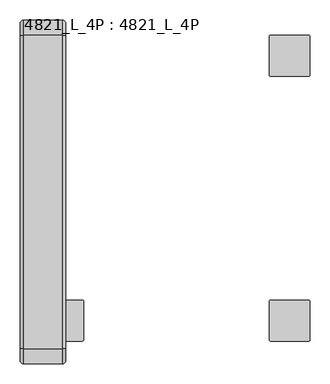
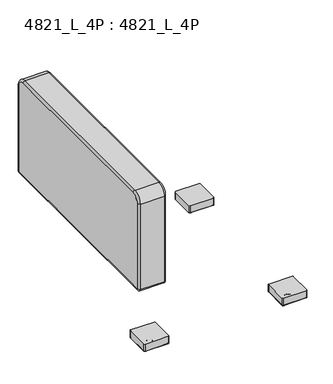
"""IFC4 building model written with IfcOpenShell, lengths in millimetres: furniture geometry, 4821_L_4P : 4821_L_4P."""

from ifc_helpers import new_model, si_unit, point, frame, frame_2d, origin, place, context, project, spatial, polyline, circle_curve, ellipse_curve, trimmed, segment, composite_curve, outline, extrude, source, transform, mapped, element, save
from ifc_brep_helpers import plane_surface, cylinder_surface, revolved_surface, advanced_brep


def furniture_4821_l_4p_4821_l_4p_99b63004(model_context):
    return source(origin(), model_context, "Body", "SolidModel", [
        advanced_brep(
        [(114.3, -8.89, 698.8175), (114.3, -38.1, 728.0275), (114.3, -819.15, 728.0275), (114.3, -848.36, 698.8175), (114.3, -848.36, 330.4403326), (114.3, -847.8021674, 329.8825), (114.3, -9.4347305, 329.8825), (114.3, -8.89, 330.4272305), (0.0, -38.1, 728.0275), (0.0, -8.89, 698.8175), (0.0, -8.89, 330.4272305), (0.0, -9.4347305, 329.8825), (0.0, -847.8021674, 329.8825), (0.0, -848.36, 330.4403326), (0.0, -848.36, 698.8175), (0.0, -819.15, 728.0275), (8.89, -38.1, 736.9175), (8.89, -819.15, 736.9175), (105.41, -819.15, 736.9175), (105.41, -38.1, 736.9175), (8.89, -857.25, 698.8175), (105.41, -857.25, 698.8175), (8.89, -857.25, 330.4403326), (105.41, -857.25, 330.4403326), (8.89, -847.8021674, 320.9925), (105.41, -847.8021674, 320.9925), (8.89, -9.4347305, 320.9925), (105.41, -9.4347305, 320.9925), (57.15, -187.325, 320.9925), (57.15, -161.925, 320.9925), (57.15, -695.325, 320.9925), (57.15, -669.925, 320.9925), (8.89, 0.0, 330.4272305), (105.41, 0.0, 330.4272305), (8.89, 0.0, 698.8175), (105.41, 0.0, 698.8175), (57.15, -161.925, 333.6925), (57.15, -187.325, 333.6925), (57.15, -669.925, 333.6925), (57.15, -695.325, 333.6925)],
        [
            (0, 1, circle_curve(frame((114.3, -38.1, 698.8175), z_axis=(1.0, 0.0, 0.0), x_axis=(0.0, 0.0, 1.0)), 29.21)),
            (1, 2),
            (2, 3, circle_curve(frame((114.3, -819.15, 698.8175), z_axis=(1.0, 0.0, 0.0), x_axis=(0.0, -1.0, 0.0)), 29.21)),
            (3, 4),
            (4, 5, circle_curve(frame((114.3, -847.8021674, 330.4403326), z_axis=(1.0, 0.0, 0.0), x_axis=(0.0, 0.0, -1.0)), 0.5578326)),
            (5, 6),
            (6, 7, circle_curve(frame((114.3, -9.4347305, 330.4272305), z_axis=(1.0, 0.0, 0.0), x_axis=(0.0, 1.0, 0.0)), 0.5447305)),
            (7, 0),
            (8, 9, circle_curve(frame((0.0, -38.1, 698.8175), z_axis=(-1.0, 0.0, 0.0), x_axis=(0.0, 0.0, 1.0)), 29.21)),
            (9, 10),
            (10, 11, circle_curve(frame((0.0, -9.4347305, 330.4272305), z_axis=(-1.0, 0.0, 0.0), x_axis=(0.0, 1.0, 0.0)), 0.5447305)),
            (11, 12),
            (12, 13, circle_curve(frame((0.0, -847.8021674, 330.4403326), z_axis=(-1.0, 0.0, 0.0), x_axis=(0.0, 0.0, -1.0)), 0.5578326)),
            (13, 14),
            (14, 15, circle_curve(frame((0.0, -819.15, 698.8175), z_axis=(-1.0, 0.0, 0.0), x_axis=(0.0, -1.0, 0.0)), 29.21)),
            (15, 8),
            (16, 17),
            (17, 18),
            (18, 19),
            (19, 16),
            (17, 20, circle_curve(frame((8.89, -819.15, 698.8175), z_axis=(1.0, 0.0, 0.0), x_axis=(0.0, -1.0, 0.0)), 38.1)),
            (20, 21),
            (21, 18, circle_curve(frame((105.41, -819.15, 698.8175), z_axis=(-1.0, 0.0, 0.0), x_axis=(0.0, -1.0, 0.0)), 38.1)),
            (20, 22),
            (22, 23),
            (23, 21),
            (22, 24, circle_curve(frame((8.89, -847.8021674, 330.4403326), z_axis=(1.0, 0.0, 0.0), x_axis=(0.0, -1.0, 0.0)), 9.4478326)),
            (24, 25),
            (25, 23, circle_curve(frame((105.41, -847.8021674, 330.4403326), z_axis=(-1.0, 0.0, 0.0), x_axis=(0.0, -1.0, 0.0)), 9.4478326)),
            (24, 26),
            (26, 27),
            (27, 25),
            (28, 29, circle_curve(frame((57.15, -174.625, 320.9925), z_axis=(0.0, 0.0, 1.0), x_axis=(-1.0, 0.0, 0.0)), 12.7)),
            (29, 28),
            (30, 31, circle_curve(frame((57.15, -682.625, 320.9925), z_axis=(0.0, 0.0, 1.0), x_axis=(-1.0, 0.0, 0.0)), 12.7)),
            (31, 30),
            (26, 32, circle_curve(frame((8.89, -9.4347305, 330.4272305), z_axis=(1.0, 0.0, 0.0), x_axis=(0.0, -1.0, 0.0)), 9.4347305)),
            (32, 33),
            (33, 27, circle_curve(frame((105.41, -9.4347305, 330.4272305), z_axis=(-1.0, 0.0, 0.0), x_axis=(0.0, -1.0, 0.0)), 9.4347305)),
            (32, 34),
            (34, 35),
            (35, 33),
            (34, 16, circle_curve(frame((8.89, -38.1, 698.8175), z_axis=(1.0, 0.0, 0.0), x_axis=(0.0, -1.0, 0.0)), 38.1)),
            (19, 35, circle_curve(frame((105.41, -38.1, 698.8175), z_axis=(-1.0, 0.0, 0.0), x_axis=(0.0, -1.0, 0.0)), 38.1)),
            (34, 9, circle_curve(frame((8.89, -8.89, 698.8175), z_axis=(0.0, 0.0, 1.0), x_axis=(1.0, 0.0, 0.0)), 8.89)),
            (8, 16, circle_curve(frame((8.89, -38.1, 728.0275), z_axis=(0.0, 1.0, 0.0), x_axis=(1.0, 0.0, 0.0)), 8.89)),
            (32, 10, circle_curve(frame((8.89, -8.89, 330.4272305), z_axis=(0.0, 0.0, 1.0), x_axis=(1.0, 0.0, 0.0)), 8.89)),
            (26, 11, circle_curve(frame((8.89, -9.4347305, 329.8825), z_axis=(0.0, 1.0, 0.0), x_axis=(1.0, 0.0, 0.0)), 8.89)),
            (24, 12, circle_curve(frame((8.89, -847.8021674, 329.8825), z_axis=(0.0, 1.0, 0.0), x_axis=(1.0, 0.0, 0.0)), 8.89)),
            (22, 13, circle_curve(frame((8.89, -848.36, 330.4403326), z_axis=(0.0, 0.0, -1.0), x_axis=(1.0, 0.0, 0.0)), 8.89)),
            (20, 14, circle_curve(frame((8.89, -848.36, 698.8175), z_axis=(0.0, 0.0, -1.0), x_axis=(1.0, 0.0, 0.0)), 8.89)),
            (17, 15, circle_curve(frame((8.89, -819.15, 728.0275), z_axis=(0.0, -1.0, 0.0), x_axis=(1.0, 0.0, 0.0)), 8.89)),
            (0, 35, circle_curve(frame((105.41, -8.89, 698.8175), z_axis=(0.0, 0.0, 1.0), x_axis=(-1.0, 0.0, 0.0)), 8.89)),
            (19, 1, circle_curve(frame((105.41, -38.1, 728.0275), z_axis=(0.0, 1.0, 0.0), x_axis=(-1.0, 0.0, 0.0)), 8.89)),
            (7, 33, circle_curve(frame((105.41, -8.89, 330.4272305), z_axis=(0.0, 0.0, 1.0), x_axis=(-1.0, 0.0, 0.0)), 8.89)),
            (6, 27, circle_curve(frame((105.41, -9.4347305, 329.8825), z_axis=(0.0, 1.0, 0.0), x_axis=(-1.0, 0.0, 0.0)), 8.89)),
            (5, 25, circle_curve(frame((105.41, -847.8021674, 329.8825), z_axis=(0.0, 1.0, 0.0), x_axis=(-1.0, 0.0, 0.0)), 8.89)),
            (4, 23, circle_curve(frame((105.41, -848.36, 330.4403326), z_axis=(0.0, 0.0, -1.0), x_axis=(-1.0, 0.0, 0.0)), 8.89)),
            (3, 21, circle_curve(frame((105.41, -848.36, 698.8175), z_axis=(0.0, 0.0, -1.0), x_axis=(-1.0, 0.0, 0.0)), 8.89)),
            (2, 18, circle_curve(frame((105.41, -819.15, 728.0275), z_axis=(0.0, -1.0, 0.0), x_axis=(-1.0, 0.0, 0.0)), 8.89)),
            (36, 37, circle_curve(frame((57.15, -174.625, 333.6925), z_axis=(0.0, 0.0, -1.0), x_axis=(-1.0, 0.0, 0.0)), 12.7)),
            (37, 36),
            (38, 39, circle_curve(frame((57.15, -682.625, 333.6925), z_axis=(0.0, 0.0, -1.0), x_axis=(-1.0, 0.0, 0.0)), 12.7)),
            (39, 38),
            (36, 29),
            (28, 37),
            (38, 31),
            (30, 39),
        ],
        [
            plane_surface(frame((114.3, -819.15, 736.9175), z_axis=(1.0, 0.0, 0.0), x_axis=(0.0, -1.0, 0.0))),
            plane_surface(frame((0.0, -819.15, 736.9175), z_axis=(-1.0, 0.0, 0.0), x_axis=(0.0, 1.0, 0.0))),
            plane_surface(frame((114.3, -38.1, 736.9175), z_axis=(0.0, 0.0, 1.0), x_axis=(-1.0, 0.0, 0.0))),
            cylinder_surface(frame((0.0, -819.15, 698.8175), z_axis=(1.0, 0.0, 0.0), x_axis=(0.0, -1.0, 0.0)), 38.1),
            plane_surface(frame((114.3, -857.25, 698.8175), z_axis=(0.0, -1.0, 0.0), x_axis=(-1.0, 0.0, 0.0))),
            cylinder_surface(frame((0.0, -847.8021674, 330.4403326), z_axis=(1.0, 0.0, 0.0), x_axis=(0.0, -1.0, 0.0)), 9.4478326),
            plane_surface(frame((114.3, -847.8021674, 320.9925), z_axis=(0.0, 0.0, -1.0), x_axis=(-1.0, 0.0, 0.0))),
            cylinder_surface(frame((0.0, -9.4347305, 330.4272305), z_axis=(1.0, 0.0, 0.0), x_axis=(0.0, -1.0, 0.0)), 9.4347305),
            plane_surface(frame((114.3, 0.0, 330.4272305), z_axis=(0.0, 1.0, 0.0), x_axis=(-1.0, 0.0, 0.0))),
            cylinder_surface(frame((0.0, -38.1, 698.8175), z_axis=(1.0, 0.0, 0.0), x_axis=(0.0, -1.0, 0.0)), 38.1),
            revolved_surface(trimmed(ellipse_curve(frame((8.89, -38.1, 728.0275), z_axis=(0.0, -1.0, 0.0), x_axis=(1.0, 0.0, 0.0)), 8.89, 8.89), [point((8.89, -38.1, 736.9175))], [point((0.0, -38.1, 728.0275))], True, "CARTESIAN"), (0.0, -38.1, 698.8175), (-1.0, 0.0, 0.0)),
            cylinder_surface(frame((8.89, -8.89, 698.8175), z_axis=(0.0, 0.0, -1.0), x_axis=(1.0, 0.0, 0.0)), 8.89),
            revolved_surface(trimmed(ellipse_curve(frame((8.89, -8.89, 330.4272305), z_axis=(0.0, 0.0, 1.0), x_axis=(1.0, 0.0, 0.0)), 8.89, 8.89), [point((8.89, 0.0, 330.4272305))], [point((0.0, -8.89, 330.4272305))], True, "CARTESIAN"), (0.0, -9.4347305, 330.4272305), (-1.0, 0.0, 0.0)),
            cylinder_surface(frame((8.89, -9.4347305, 329.8825), z_axis=(0.0, -1.0, 0.0), x_axis=(1.0, 0.0, 0.0)), 8.89),
            revolved_surface(trimmed(ellipse_curve(frame((8.89, -847.8021674, 329.8825), z_axis=(0.0, 1.0, 0.0), x_axis=(1.0, 0.0, 0.0)), 8.89, 8.89), [point((8.89, -847.8021674, 320.9925))], [point((0.0, -847.8021674, 329.8825))], True, "CARTESIAN"), (0.0, -847.8021674, 330.4403326), (-1.0, 0.0, 0.0)),
            cylinder_surface(frame((8.89, -848.36, 330.4403326), z_axis=(0.0, 0.0, 1.0), x_axis=(1.0, 0.0, 0.0)), 8.89),
            revolved_surface(trimmed(ellipse_curve(frame((8.89, -848.36, 698.8175), z_axis=(0.0, 0.0, -1.0), x_axis=(1.0, 0.0, 0.0)), 8.89, 8.89), [point((8.89, -857.25, 698.8175))], [point((0.0, -848.36, 698.8175))], True, "CARTESIAN"), (0.0, -819.15, 698.8175), (-1.0, 0.0, 0.0)),
            cylinder_surface(frame((8.89, -819.15, 728.0275), z_axis=(0.0, 1.0, 0.0), x_axis=(1.0, 0.0, 0.0)), 8.89),
            revolved_surface(trimmed(ellipse_curve(frame((105.41, -38.1, 728.0275), z_axis=(0.0, -1.0, 0.0), x_axis=(-1.0, 0.0, 0.0)), 8.89, 8.89), [point((114.3, -38.1, 728.0275))], [point((105.41, -38.1, 736.9175))], True, "CARTESIAN"), (114.3, -38.1, 698.8175), (-1.0, 0.0, 0.0)),
            cylinder_surface(frame((105.41, -8.89, 698.8175), z_axis=(0.0, 0.0, -1.0), x_axis=(-1.0, 0.0, 0.0)), 8.89),
            revolved_surface(trimmed(ellipse_curve(frame((105.41, -8.89, 330.4272305), z_axis=(0.0, 0.0, 1.0), x_axis=(-1.0, 0.0, 0.0)), 8.89, 8.89), [point((114.3, -8.89, 330.4272305))], [point((105.41, 0.0, 330.4272305))], True, "CARTESIAN"), (114.3, -9.4347305, 330.4272305), (-1.0, 0.0, 0.0)),
            cylinder_surface(frame((105.41, -9.4347305, 329.8825), z_axis=(0.0, -1.0, 0.0), x_axis=(-1.0, 0.0, 0.0)), 8.89),
            revolved_surface(trimmed(ellipse_curve(frame((105.41, -847.8021674, 329.8825), z_axis=(0.0, 1.0, 0.0), x_axis=(-1.0, 0.0, 0.0)), 8.89, 8.89), [point((114.3, -847.8021674, 329.8825))], [point((105.41, -847.8021674, 320.9925))], True, "CARTESIAN"), (114.3, -847.8021674, 330.4403326), (-1.0, 0.0, 0.0)),
            cylinder_surface(frame((105.41, -848.36, 330.4403326), z_axis=(0.0, 0.0, 1.0), x_axis=(-1.0, 0.0, 0.0)), 8.89),
            revolved_surface(trimmed(ellipse_curve(frame((105.41, -848.36, 698.8175), z_axis=(0.0, 0.0, -1.0), x_axis=(-1.0, 0.0, 0.0)), 8.89, 8.89), [point((114.3, -848.36, 698.8175))], [point((105.41, -857.25, 698.8175))], True, "CARTESIAN"), (114.3, -819.15, 698.8175), (-1.0, 0.0, 0.0)),
            cylinder_surface(frame((105.41, -819.15, 728.0275), z_axis=(0.0, 1.0, 0.0), x_axis=(-1.0, 0.0, 0.0)), 8.89),
            plane_surface(frame((57.15, -187.325, 333.6925), z_axis=(0.0, 0.0, -1.0), x_axis=(0.0, -1.0, 0.0))),
            revolved_surface(polyline([(44.45, -174.625, 333.6925), (44.45, -174.625, 320.9925)]), (57.15, -174.625, 320.9925), (0.0, 0.0, 1.0)),
            plane_surface(frame((57.15, -161.925, 333.6925), z_axis=(1.0, 0.0, 0.0), x_axis=(0.0, 0.0, -1.0))),
            revolved_surface(polyline([(44.45, -682.625, 333.6925), (44.45, -682.625, 320.9925)]), (57.15, -682.625, 9.8425), (0.0, 0.0, 1.0)),
            plane_surface(frame((57.15, -669.925, 333.6925), z_axis=(1.0, 0.0, 0.0), x_axis=(0.0, 0.0, -1.0))),
        ],
        [
            (0, [[1, 2, 3, 4, 5, 6, 7, 8]]),
            (1, [[9, 10, 11, 12, 13, 14, 15, 16]]),
            (2, [[17, 18, 19, 20]]),
            (3, [[21, 22, 23, -18]]),
            (4, [[24, 25, 26, -22]]),
            (5, [[27, 28, 29, -25]]),
            (6, [[30, 31, 32, -28], [33, 34], [35, 36]]),
            (7, [[37, 38, 39, -31]]),
            (8, [[40, 41, 42, -38]]),
            (9, [[43, -20, 44, -41]]),
            (10, [[45, -9, 46, -43]]),
            (11, [[-45, -40, 47, -10]]),
            (12, [[-47, -37, 48, -11]]),
            (13, [[-48, -30, 49, -12]]),
            (14, [[-49, -27, 50, -13]]),
            (15, [[-50, -24, 51, -14]]),
            (16, [[-51, -21, 52, -15]]),
            (17, [[-46, -16, -52, -17]]),
            (18, [[53, -44, 54, -1]]),
            (19, [[-53, -8, 55, -42]]),
            (20, [[-55, -7, 56, -39]]),
            (21, [[-56, -6, 57, -32]]),
            (22, [[-57, -5, 58, -29]]),
            (23, [[-58, -4, 59, -26]]),
            (24, [[-59, -3, 60, -23]]),
            (25, [[-54, -19, -60, -2]]),
            (26, [[61, 62]]),
            (26, [[63, 64]]),
            (27, [[-61, 65, -33, 66]]),
            (28, [[-62, -66, -34, -65]]),
            (29, [[-63, 67, -35, 68]]),
            (30, [[-64, -68, -36, -67]]),
        ],
    ),
        advanced_brep(
        [(155.575, -698.5, 41.5925), (60.325, -698.5, 41.5925), (57.15, -701.675, 41.5925), (57.15, -796.925, 41.5925), (60.325, -800.1, 41.5925), (155.575, -800.1, 41.5925), (158.75, -796.925, 41.5925), (158.75, -701.675, 41.5925), (58.42, -701.675, 11.1125), (60.325, -699.77, 11.1125), (155.575, -699.77, 11.1125), (157.48, -701.675, 11.1125), (157.48, -796.925, 11.1125), (155.575, -798.83, 11.1125), (60.325, -798.83, 11.1125), (58.42, -796.925, 11.1125), (155.575, -698.5, 11.1125), (60.325, -698.5, 11.1125), (57.15, -701.675, 11.1125), (57.15, -796.925, 11.1125), (60.325, -800.1, 11.1125), (155.575, -800.1, 11.1125), (158.75, -796.925, 11.1125), (158.75, -701.675, 11.1125), (60.325, -699.77, 9.8425), (58.42, -701.675, 9.8425), (155.575, -699.77, 9.8425), (157.48, -701.675, 9.8425), (157.48, -796.925, 9.8425), (155.575, -798.83, 9.8425), (60.325, -798.83, 9.8425), (58.42, -796.925, 9.8425)],
        [
            (0, 1),
            (1, 2, circle_curve(frame((60.325, -701.675, 41.5925), z_axis=(0.0, 0.0, 1.0), x_axis=(1.0, 0.0, 0.0)), 3.175)),
            (2, 3),
            (3, 4, circle_curve(frame((60.325, -796.925, 41.5925), z_axis=(0.0, 0.0, 1.0), x_axis=(1.0, 0.0, 0.0)), 3.175)),
            (4, 5),
            (5, 6, circle_curve(frame((155.575, -796.925, 41.5925), z_axis=(0.0, 0.0, 1.0), x_axis=(1.0, 0.0, 0.0)), 3.175)),
            (6, 7),
            (7, 0, circle_curve(frame((155.575, -701.675, 41.5925), z_axis=(0.0, 0.0, 1.0), x_axis=(1.0, 0.0, 0.0)), 3.175)),
            (8, 9, circle_curve(frame((60.325, -701.675, 11.1125), z_axis=(0.0, 0.0, -1.0), x_axis=(-1.0, 0.0, 0.0)), 1.905)),
            (9, 10),
            (10, 11, circle_curve(frame((155.575, -701.675, 11.1125), z_axis=(0.0, 0.0, -1.0), x_axis=(0.0, 1.0, 0.0)), 1.905)),
            (11, 12),
            (12, 13, circle_curve(frame((155.575, -796.925, 11.1125), z_axis=(0.0, 0.0, -1.0), x_axis=(1.0, 0.0, 0.0)), 1.905)),
            (13, 14),
            (14, 15, circle_curve(frame((60.325, -796.925, 11.1125), z_axis=(0.0, 0.0, -1.0), x_axis=(0.0, -1.0, 0.0)), 1.905)),
            (15, 8),
            (0, 16),
            (16, 17),
            (17, 1),
            (17, 18, circle_curve(frame((60.325, -701.675, 11.1125), z_axis=(0.0, 0.0, 1.0), x_axis=(1.0, 0.0, 0.0)), 3.175)),
            (18, 2),
            (18, 19),
            (19, 3),
            (19, 20, circle_curve(frame((60.325, -796.925, 11.1125), z_axis=(0.0, 0.0, 1.0), x_axis=(1.0, 0.0, 0.0)), 3.175)),
            (20, 4),
            (20, 21),
            (21, 5),
            (21, 22, circle_curve(frame((155.575, -796.925, 11.1125), z_axis=(0.0, 0.0, 1.0), x_axis=(1.0, 0.0, 0.0)), 3.175)),
            (22, 6),
            (22, 23),
            (23, 7),
            (23, 16, circle_curve(frame((155.575, -701.675, 11.1125), z_axis=(0.0, 0.0, 1.0), x_axis=(1.0, 0.0, 0.0)), 3.175)),
            (24, 25, circle_curve(frame((60.325, -701.675, 9.8425), z_axis=(0.0, 0.0, 1.0), x_axis=(-1.0, 0.0, 0.0)), 1.905)),
            (25, 18, circle_curve(frame((58.42, -701.675, 11.1125), z_axis=(0.0, 1.0, 0.0), x_axis=(1.0, 0.0, 0.0)), 1.27)),
            (17, 24, circle_curve(frame((60.325, -699.77, 11.1125), z_axis=(-1.0, 0.0, 0.0), x_axis=(0.0, -1.0, 0.0)), 1.27)),
            (16, 26, circle_curve(frame((155.575, -699.77, 11.1125), z_axis=(-1.0, 0.0, 0.0), x_axis=(0.0, -1.0, 0.0)), 1.27)),
            (26, 24),
            (23, 27, circle_curve(frame((157.48, -701.675, 11.1125), z_axis=(0.0, 1.0, 0.0), x_axis=(-1.0, 0.0, 0.0)), 1.27)),
            (27, 26, circle_curve(frame((155.575, -701.675, 9.8425), z_axis=(0.0, 0.0, 1.0), x_axis=(0.0, 1.0, 0.0)), 1.905)),
            (22, 28, circle_curve(frame((157.48, -796.925, 11.1125), z_axis=(0.0, 1.0, 0.0), x_axis=(-1.0, 0.0, 0.0)), 1.27)),
            (28, 27),
            (21, 29, circle_curve(frame((155.575, -798.83, 11.1125), z_axis=(1.0, 0.0, 0.0), x_axis=(0.0, 1.0, 0.0)), 1.27)),
            (29, 28, circle_curve(frame((155.575, -796.925, 9.8425), z_axis=(0.0, 0.0, 1.0), x_axis=(1.0, 0.0, 0.0)), 1.905)),
            (20, 30, circle_curve(frame((60.325, -798.83, 11.1125), z_axis=(1.0, 0.0, 0.0), x_axis=(0.0, 1.0, 0.0)), 1.27)),
            (30, 29),
            (19, 31, circle_curve(frame((58.42, -796.925, 11.1125), z_axis=(0.0, -1.0, 0.0), x_axis=(1.0, 0.0, 0.0)), 1.27)),
            (31, 30, circle_curve(frame((60.325, -796.925, 9.8425), z_axis=(0.0, 0.0, 1.0), x_axis=(0.0, -1.0, 0.0)), 1.905)),
            (25, 31),
            (24, 9),
            (8, 25),
            (26, 10),
            (27, 11),
            (28, 12),
            (29, 13),
            (30, 14),
            (31, 15),
        ],
        [
            plane_surface(frame((60.325, -698.5, 41.5925), z_axis=(0.0, 0.0, 1.0), x_axis=(-1.0, 0.0, 0.0))),
            plane_surface(frame((60.325, -698.5, 11.1125), z_axis=(0.0, 0.0, -1.0), x_axis=(1.0, 0.0, 0.0))),
            plane_surface(frame((155.575, -698.5, 41.5925), z_axis=(0.0, 1.0, 0.0), x_axis=(0.0, 0.0, -1.0))),
            cylinder_surface(frame((60.325, -701.675, 11.1125), z_axis=(0.0, 0.0, 1.0), x_axis=(1.0, 0.0, 0.0)), 3.175),
            plane_surface(frame((57.15, -701.675, 41.5925), z_axis=(-1.0, 0.0, 0.0), x_axis=(0.0, 0.0, -1.0))),
            cylinder_surface(frame((60.325, -796.925, 11.1125), z_axis=(0.0, 0.0, 1.0), x_axis=(1.0, 0.0, 0.0)), 3.175),
            plane_surface(frame((60.325, -800.1, 41.5925), z_axis=(0.0, -1.0, 0.0), x_axis=(0.0, 0.0, -1.0))),
            cylinder_surface(frame((155.575, -796.925, 11.1125), z_axis=(0.0, 0.0, 1.0), x_axis=(1.0, 0.0, 0.0)), 3.175),
            plane_surface(frame((158.75, -796.925, 41.5925), z_axis=(1.0, 0.0, 0.0), x_axis=(0.0, 0.0, -1.0))),
            cylinder_surface(frame((155.575, -701.675, 11.1125), z_axis=(0.0, 0.0, 1.0), x_axis=(1.0, 0.0, 0.0)), 3.175),
            revolved_surface(trimmed(ellipse_curve(frame((58.42, -701.675, 11.1125), z_axis=(0.0, -1.0, 0.0), x_axis=(1.0, 0.0, 0.0)), 1.27, 1.27), [point((57.15, -701.675, 11.1125))], [point((58.42, -701.675, 9.8425))], True, "CARTESIAN"), (60.325, -701.675, 11.1125), (0.0, 0.0, -1.0)),
            cylinder_surface(frame((60.325, -699.77, 11.1125), z_axis=(-1.0, 0.0, 0.0), x_axis=(0.0, -1.0, 0.0)), 1.27),
            revolved_surface(trimmed(ellipse_curve(frame((155.575, -699.77, 11.1125), z_axis=(-1.0, 0.0, 0.0), x_axis=(0.0, -1.0, 0.0)), 1.27, 1.27), [point((155.575, -698.5, 11.1125))], [point((155.575, -699.77, 9.8425))], True, "CARTESIAN"), (155.575, -701.675, 11.1125), (0.0, 0.0, -1.0)),
            cylinder_surface(frame((157.48, -701.675, 11.1125), z_axis=(0.0, 1.0, 0.0), x_axis=(-1.0, 0.0, 0.0)), 1.27),
            revolved_surface(trimmed(ellipse_curve(frame((157.48, -796.925, 11.1125), z_axis=(0.0, 1.0, 0.0), x_axis=(-1.0, 0.0, 0.0)), 1.27, 1.27), [point((158.75, -796.925, 11.1125))], [point((157.48, -796.925, 9.8425))], True, "CARTESIAN"), (155.575, -796.925, 11.1125), (0.0, 0.0, -1.0)),
            cylinder_surface(frame((155.575, -798.83, 11.1125), z_axis=(1.0, 0.0, 0.0), x_axis=(0.0, 1.0, 0.0)), 1.27),
            revolved_surface(trimmed(ellipse_curve(frame((60.325, -798.83, 11.1125), z_axis=(1.0, 0.0, 0.0), x_axis=(0.0, 1.0, 0.0)), 1.27, 1.27), [point((60.325, -800.1, 11.1125))], [point((60.325, -798.83, 9.8425))], True, "CARTESIAN"), (60.325, -796.925, 11.1125), (0.0, 0.0, -1.0)),
            cylinder_surface(frame((58.42, -796.925, 11.1125), z_axis=(0.0, -1.0, 0.0), x_axis=(1.0, 0.0, 0.0)), 1.27),
            revolved_surface(polyline([(58.42, -701.675, 9.8425), (58.42, -701.675, 11.1125)]), (60.325, -701.675, 11.1125), (0.0, 0.0, -1.0)),
            plane_surface(frame((60.325, -699.77, 9.8425), z_axis=(0.0, -1.0, 0.0), x_axis=(1.0, 0.0, 0.0))),
            revolved_surface(polyline([(155.575, -699.77, 9.8425), (155.575, -699.77, 11.1125)]), (155.575, -701.675, 11.1125), (0.0, 0.0, -1.0)),
            plane_surface(frame((157.48, -701.675, 9.8425), z_axis=(-1.0, 0.0, 0.0), x_axis=(0.0, -1.0, 0.0))),
            revolved_surface(polyline([(157.48, -796.925, 9.8425), (157.48, -796.925, 11.1125)]), (155.575, -796.925, 11.1125), (0.0, 0.0, -1.0)),
            plane_surface(frame((155.575, -798.83, 9.8425), z_axis=(0.0, 1.0, 0.0), x_axis=(-1.0, 0.0, 0.0))),
            revolved_surface(polyline([(60.325, -798.8299999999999, 9.8425), (60.325, -798.8299999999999, 11.1125)]), (60.325, -796.925, 11.1125), (0.0, 0.0, -1.0)),
            plane_surface(frame((58.42, -796.925, 9.8425), z_axis=(1.0, 0.0, 0.0), x_axis=(0.0, 1.0, 0.0))),
        ],
        [
            (0, [[1, 2, 3, 4, 5, 6, 7, 8]]),
            (1, [[9, 10, 11, 12, 13, 14, 15, 16]]),
            (2, [[-1, 17, 18, 19]]),
            (3, [[-2, -19, 20, 21]]),
            (4, [[-3, -21, 22, 23]]),
            (5, [[-4, -23, 24, 25]]),
            (6, [[-5, -25, 26, 27]]),
            (7, [[-6, -27, 28, 29]]),
            (8, [[-7, -29, 30, 31]]),
            (9, [[-8, -31, 32, -17]]),
            (10, [[33, 34, -20, 35]]),
            (11, [[-35, -18, 36, 37]]),
            (12, [[-36, -32, 38, 39]]),
            (13, [[-38, -30, 40, 41]]),
            (14, [[-40, -28, 42, 43]]),
            (15, [[-42, -26, 44, 45]]),
            (16, [[-44, -24, 46, 47]]),
            (17, [[-34, 48, -46, -22]]),
            (18, [[-33, 49, -9, 50]]),
            (19, [[-37, 51, -10, -49]]),
            (20, [[-39, 52, -11, -51]]),
            (21, [[-41, 53, -12, -52]]),
            (22, [[-43, 54, -13, -53]]),
            (23, [[-45, 55, -14, -54]]),
            (24, [[-47, 56, -15, -55]]),
            (25, [[-48, -50, -16, -56]]),
        ],
    ),
        extrude(outline(composite_curve([segment(trimmed(circle_curve(frame_2d((60.325, -796.925)), 1.905), [point((60.325, -798.83))], [point((58.42, -796.925))], False, "CARTESIAN"), True, "CONTINUOUS"), segment(polyline([(58.42, -796.925), (58.42, -701.675)]), True, "CONTINUOUS"), segment(trimmed(circle_curve(frame_2d((60.325, -701.675)), 1.905), [point((58.42, -701.675))], [point((60.325, -699.77))], False, "CARTESIAN"), True, "CONTINUOUS"), segment(polyline([(60.325, -699.77), (155.575, -699.77)]), True, "CONTINUOUS"), segment(trimmed(circle_curve(frame_2d((155.575, -701.675)), 1.905), [point((155.575, -699.77))], [point((157.48, -701.675))], False, "CARTESIAN"), True, "CONTINUOUS"), segment(polyline([(157.48, -701.675), (157.48, -796.925)]), True, "CONTINUOUS"), segment(trimmed(circle_curve(frame_2d((155.575, -796.925)), 1.905), [point((157.48, -796.925))], [point((155.575, -798.83))], False, "CARTESIAN"), True, "CONTINUOUS"), segment(polyline([(155.575, -798.83), (60.325, -798.83)]), True, "CONTINUOUS")], self_intersect=False)), frame((0.0, 0.0, 9.8425), z_axis=(0.0, 0.0, 1.0), x_axis=(1.0, 0.0, 0.0)), (0.0, 0.0, 1.0), 1.27),
        advanced_brep(
        [(97.7978666, -749.3, 0.0), (118.1021334, -749.3, 0.0), (107.95, -749.3, 0.0), (97.4725, -749.3, 5.08), (118.4275, -749.3, 5.08), (97.4725, -749.3, 9.0481974), (118.4275, -749.3, 9.0481974), (98.2668026, -749.3, 9.8425), (117.6331974, -749.3, 9.8425), (107.95, -749.3, 9.8425)],
        [
            (0, 1, circle_curve(frame((107.95, -749.3, 0.0), z_axis=(0.0, 0.0, -1.0), x_axis=(1.0, 0.0, 0.0)), 10.1521334)),
            (1, 2),
            (2, 0),
            (1, 0, circle_curve(frame((107.95, -749.3, 0.0), z_axis=(0.0, 0.0, -1.0), x_axis=(1.0, 0.0, 0.0)), 10.1521334)),
            (3, 4, circle_curve(frame((107.95, -749.3, 5.08), z_axis=(0.0, 0.0, -1.0), x_axis=(1.0, 0.0, 0.0)), 10.4775)),
            (4, 1, circle_curve(frame((118.1021334, -749.3, 2.5504196), z_axis=(0.0, 1.0, 0.0), x_axis=(1.0, 0.0, 0.0)), 2.5504196)),
            (0, 3, circle_curve(frame((97.7978666, -749.3, 2.5504196), z_axis=(0.0, 1.0, 0.0), x_axis=(-1.0, 0.0, 0.0)), 2.5504196)),
            (4, 3, circle_curve(frame((107.95, -749.3, 5.08), z_axis=(0.0, 0.0, -1.0), x_axis=(1.0, 0.0, 0.0)), 10.4775)),
            (5, 6, circle_curve(frame((107.95, -749.3, 9.0481974), z_axis=(0.0, 0.0, -1.0), x_axis=(1.0, 0.0, 0.0)), 10.4775)),
            (6, 4),
            (3, 5),
            (6, 5, circle_curve(frame((107.95, -749.3, 9.0481974), z_axis=(0.0, 0.0, -1.0), x_axis=(1.0, 0.0, 0.0)), 10.4775)),
            (7, 8, circle_curve(frame((107.95, -749.3, 9.8425), z_axis=(0.0, 0.0, -1.0), x_axis=(1.0, 0.0, 0.0)), 9.6831974)),
            (8, 6, circle_curve(frame((117.6331974, -749.3, 9.0481974), z_axis=(0.0, 1.0, 0.0), x_axis=(1.0, 0.0, 0.0)), 0.7943026)),
            (5, 7, circle_curve(frame((98.2668026, -749.3, 9.0481974), z_axis=(0.0, 1.0, 0.0), x_axis=(-1.0, 0.0, 0.0)), 0.7943026)),
            (8, 7, circle_curve(frame((107.95, -749.3, 9.8425), z_axis=(0.0, 0.0, -1.0), x_axis=(1.0, 0.0, 0.0)), 9.6831974)),
            (9, 8),
            (7, 9),
        ],
        [
            plane_surface(frame((107.95, -749.3, 0.0), z_axis=(0.0, 0.0, -1.0), x_axis=(1.0, 0.0, 0.0))),
            revolved_surface(trimmed(ellipse_curve(frame((118.1021334, -749.3, 2.5504196), z_axis=(0.0, -1.0, 0.0), x_axis=(1.0, 0.0, 0.0)), 2.5504196, 2.5504196), [point((118.1021334, -749.3, 0.0))], [point((118.4275, -749.3, 5.08))], True, "CARTESIAN"), (107.95, -749.3, 9.8425), (0.0, 0.0, 1.0)),
            cylinder_surface(frame((107.95, -749.3, 9.8425), z_axis=(0.0, 0.0, 1.0), x_axis=(1.0, 0.0, 0.0)), 10.4775),
            revolved_surface(trimmed(ellipse_curve(frame((117.6331974, -749.3, 9.0481974), z_axis=(0.0, -1.0, 0.0), x_axis=(1.0, 0.0, 0.0)), 0.7943026, 0.7943026), [point((118.4275, -749.3, 9.0481974))], [point((117.6331974, -749.3, 9.8425))], True, "CARTESIAN"), (107.95, -749.3, 9.8425), (0.0, 0.0, 1.0)),
            plane_surface(frame((107.95, -749.3, 9.8425), z_axis=(0.0, 0.0, 1.0), x_axis=(1.0, 0.0, 0.0))),
        ],
        [
            (0, [[1, 2, 3]]),
            (0, [[4, -3, -2]]),
            (1, [[5, 6, -1, 7]]),
            (1, [[8, -7, -4, -6]]),
            (2, [[9, 10, -5, 11]]),
            (2, [[12, -11, -8, -10]]),
            (3, [[13, 14, -9, 15]]),
            (3, [[16, -15, -12, -14]]),
            (4, [[17, -13, 18]]),
            (4, [[-18, -16, -17]]),
        ],
    ),
        advanced_brep(
        [(720.725, -698.5, 41.5925), (625.475, -698.5, 41.5925), (622.3, -701.675, 41.5925), (622.3, -796.925, 41.5925), (625.475, -800.1, 41.5925), (720.725, -800.1, 41.5925), (723.9, -796.925, 41.5925), (723.9, -701.675, 41.5925), (623.57, -701.675, 11.1125), (625.475, -699.77, 11.1125), (720.725, -699.77, 11.1125), (722.63, -701.675, 11.1125), (722.63, -796.925, 11.1125), (720.725, -798.83, 11.1125), (625.475, -798.83, 11.1125), (623.57, -796.925, 11.1125), (720.725, -698.5, 11.1125), (625.475, -698.5, 11.1125), (622.3, -701.675, 11.1125), (622.3, -796.925, 11.1125), (625.475, -800.1, 11.1125), (720.725, -800.1, 11.1125), (723.9, -796.925, 11.1125), (723.9, -701.675, 11.1125), (625.475, -699.77, 9.8425), (623.57, -701.675, 9.8425), (720.725, -699.77, 9.8425), (722.63, -701.675, 9.8425), (722.63, -796.925, 9.8425), (720.725, -798.83, 9.8425), (625.475, -798.83, 9.8425), (623.57, -796.925, 9.8425)],
        [
            (0, 1),
            (1, 2, circle_curve(frame((625.475, -701.675, 41.5925), z_axis=(0.0, 0.0, 1.0), x_axis=(1.0, 0.0, 0.0)), 3.175)),
            (2, 3),
            (3, 4, circle_curve(frame((625.475, -796.925, 41.5925), z_axis=(0.0, 0.0, 1.0), x_axis=(1.0, 0.0, 0.0)), 3.175)),
            (4, 5),
            (5, 6, circle_curve(frame((720.725, -796.925, 41.5925), z_axis=(0.0, 0.0, 1.0), x_axis=(1.0, 0.0, 0.0)), 3.175)),
            (6, 7),
            (7, 0, circle_curve(frame((720.725, -701.675, 41.5925), z_axis=(0.0, 0.0, 1.0), x_axis=(1.0, 0.0, 0.0)), 3.175)),
            (8, 9, circle_curve(frame((625.475, -701.675, 11.1125), z_axis=(0.0, 0.0, -1.0), x_axis=(-1.0, 0.0, 0.0)), 1.905)),
            (9, 10),
            (10, 11, circle_curve(frame((720.725, -701.675, 11.1125), z_axis=(0.0, 0.0, -1.0), x_axis=(0.0, 1.0, 0.0)), 1.905)),
            (11, 12),
            (12, 13, circle_curve(frame((720.725, -796.925, 11.1125), z_axis=(0.0, 0.0, -1.0), x_axis=(1.0, 0.0, 0.0)), 1.905)),
            (13, 14),
            (14, 15, circle_curve(frame((625.475, -796.925, 11.1125), z_axis=(0.0, 0.0, -1.0), x_axis=(0.0, -1.0, 0.0)), 1.905)),
            (15, 8),
            (0, 16),
            (16, 17),
            (17, 1),
            (17, 18, circle_curve(frame((625.475, -701.675, 11.1125), z_axis=(0.0, 0.0, 1.0), x_axis=(1.0, 0.0, 0.0)), 3.175)),
            (18, 2),
            (18, 19),
            (19, 3),
            (19, 20, circle_curve(frame((625.475, -796.925, 11.1125), z_axis=(0.0, 0.0, 1.0), x_axis=(1.0, 0.0, 0.0)), 3.175)),
            (20, 4),
            (20, 21),
            (21, 5),
            (21, 22, circle_curve(frame((720.725, -796.925, 11.1125), z_axis=(0.0, 0.0, 1.0), x_axis=(1.0, 0.0, 0.0)), 3.175)),
            (22, 6),
            (22, 23),
            (23, 7),
            (23, 16, circle_curve(frame((720.725, -701.675, 11.1125), z_axis=(0.0, 0.0, 1.0), x_axis=(1.0, 0.0, 0.0)), 3.175)),
            (24, 25, circle_curve(frame((625.475, -701.675, 9.8425), z_axis=(0.0, 0.0, 1.0), x_axis=(-1.0, 0.0, 0.0)), 1.905)),
            (25, 18, circle_curve(frame((623.57, -701.675, 11.1125), z_axis=(0.0, 1.0, 0.0), x_axis=(1.0, 0.0, 0.0)), 1.27)),
            (17, 24, circle_curve(frame((625.475, -699.77, 11.1125), z_axis=(-1.0, 0.0, 0.0), x_axis=(0.0, -1.0, 0.0)), 1.27)),
            (16, 26, circle_curve(frame((720.725, -699.77, 11.1125), z_axis=(-1.0, 0.0, 0.0), x_axis=(0.0, -1.0, 0.0)), 1.27)),
            (26, 24),
            (23, 27, circle_curve(frame((722.63, -701.675, 11.1125), z_axis=(0.0, 1.0, 0.0), x_axis=(-1.0, 0.0, 0.0)), 1.27)),
            (27, 26, circle_curve(frame((720.725, -701.675, 9.8425), z_axis=(0.0, 0.0, 1.0), x_axis=(0.0, 1.0, 0.0)), 1.905)),
            (22, 28, circle_curve(frame((722.63, -796.925, 11.1125), z_axis=(0.0, 1.0, 0.0), x_axis=(-1.0, 0.0, 0.0)), 1.27)),
            (28, 27),
            (21, 29, circle_curve(frame((720.725, -798.83, 11.1125), z_axis=(1.0, 0.0, 0.0), x_axis=(0.0, 1.0, 0.0)), 1.27)),
            (29, 28, circle_curve(frame((720.725, -796.925, 9.8425), z_axis=(0.0, 0.0, 1.0), x_axis=(1.0, 0.0, 0.0)), 1.905)),
            (20, 30, circle_curve(frame((625.475, -798.83, 11.1125), z_axis=(1.0, 0.0, 0.0), x_axis=(0.0, 1.0, 0.0)), 1.27)),
            (30, 29),
            (19, 31, circle_curve(frame((623.57, -796.925, 11.1125), z_axis=(0.0, -1.0, 0.0), x_axis=(1.0, 0.0, 0.0)), 1.27)),
            (31, 30, circle_curve(frame((625.475, -796.925, 9.8425), z_axis=(0.0, 0.0, 1.0), x_axis=(0.0, -1.0, 0.0)), 1.905)),
            (25, 31),
            (24, 9),
            (8, 25),
            (26, 10),
            (27, 11),
            (28, 12),
            (29, 13),
            (30, 14),
            (31, 15),
        ],
        [
            plane_surface(frame((625.475, -698.5, 41.5925), z_axis=(0.0, 0.0, 1.0), x_axis=(-1.0, 0.0, 0.0))),
            plane_surface(frame((625.475, -698.5, 11.1125), z_axis=(0.0, 0.0, -1.0), x_axis=(1.0, 0.0, 0.0))),
            plane_surface(frame((720.725, -698.5, 41.5925), z_axis=(0.0, 1.0, 0.0), x_axis=(0.0, 0.0, -1.0))),
            cylinder_surface(frame((625.475, -701.675, 11.1125), z_axis=(0.0, 0.0, 1.0), x_axis=(1.0, 0.0, 0.0)), 3.175),
            plane_surface(frame((622.3, -701.675, 41.5925), z_axis=(-1.0, 0.0, 0.0), x_axis=(0.0, 0.0, -1.0))),
            cylinder_surface(frame((625.475, -796.925, 11.1125), z_axis=(0.0, 0.0, 1.0), x_axis=(1.0, 0.0, 0.0)), 3.175),
            plane_surface(frame((625.475, -800.1, 41.5925), z_axis=(0.0, -1.0, 0.0), x_axis=(0.0, 0.0, -1.0))),
            cylinder_surface(frame((720.725, -796.925, 11.1125), z_axis=(0.0, 0.0, 1.0), x_axis=(1.0, 0.0, 0.0)), 3.175),
            plane_surface(frame((723.9, -796.925, 41.5925), z_axis=(1.0, 0.0, 0.0), x_axis=(0.0, 0.0, -1.0))),
            cylinder_surface(frame((720.725, -701.675, 11.1125), z_axis=(0.0, 0.0, 1.0), x_axis=(1.0, 0.0, 0.0)), 3.175),
            revolved_surface(trimmed(ellipse_curve(frame((623.57, -701.675, 11.1125), z_axis=(0.0, -1.0, 0.0), x_axis=(1.0, 0.0, 0.0)), 1.27, 1.27), [point((622.3, -701.675, 11.1125))], [point((623.57, -701.675, 9.8425))], True, "CARTESIAN"), (625.475, -701.675, 11.1125), (0.0, 0.0, -1.0)),
            cylinder_surface(frame((625.475, -699.77, 11.1125), z_axis=(-1.0, 0.0, 0.0), x_axis=(0.0, -1.0, 0.0)), 1.27),
            revolved_surface(trimmed(ellipse_curve(frame((720.725, -699.77, 11.1125), z_axis=(-1.0, 0.0, 0.0), x_axis=(0.0, -1.0, 0.0)), 1.27, 1.27), [point((720.725, -698.5, 11.1125))], [point((720.725, -699.77, 9.8425))], True, "CARTESIAN"), (720.725, -701.675, 11.1125), (0.0, 0.0, -1.0)),
            cylinder_surface(frame((722.63, -701.675, 11.1125), z_axis=(0.0, 1.0, 0.0), x_axis=(-1.0, 0.0, 0.0)), 1.27),
            revolved_surface(trimmed(ellipse_curve(frame((722.63, -796.925, 11.1125), z_axis=(0.0, 1.0, 0.0), x_axis=(-1.0, 0.0, 0.0)), 1.27, 1.27), [point((723.9, -796.925, 11.1125))], [point((722.63, -796.925, 9.8425))], True, "CARTESIAN"), (720.725, -796.925, 11.1125), (0.0, 0.0, -1.0)),
            cylinder_surface(frame((720.725, -798.83, 11.1125), z_axis=(1.0, 0.0, 0.0), x_axis=(0.0, 1.0, 0.0)), 1.27),
            revolved_surface(trimmed(ellipse_curve(frame((625.475, -798.83, 11.1125), z_axis=(1.0, 0.0, 0.0), x_axis=(0.0, 1.0, 0.0)), 1.27, 1.27), [point((625.475, -800.1, 11.1125))], [point((625.475, -798.83, 9.8425))], True, "CARTESIAN"), (625.475, -796.925, 11.1125), (0.0, 0.0, -1.0)),
            cylinder_surface(frame((623.57, -796.925, 11.1125), z_axis=(0.0, -1.0, 0.0), x_axis=(1.0, 0.0, 0.0)), 1.27),
            revolved_surface(polyline([(623.57, -701.675, 9.8425), (623.57, -701.675, 11.1125)]), (625.475, -701.675, 11.1125), (0.0, 0.0, -1.0)),
            plane_surface(frame((625.475, -699.77, 9.8425), z_axis=(0.0, -1.0, 0.0), x_axis=(1.0, 0.0, 0.0))),
            revolved_surface(polyline([(720.725, -699.77, 9.8425), (720.725, -699.77, 11.1125)]), (720.725, -701.675, 11.1125), (0.0, 0.0, -1.0)),
            plane_surface(frame((722.63, -701.675, 9.8425), z_axis=(-1.0, 0.0, 0.0), x_axis=(0.0, -1.0, 0.0))),
            revolved_surface(polyline([(722.63, -796.925, 9.8425), (722.63, -796.925, 11.1125)]), (720.725, -796.925, 11.1125), (0.0, 0.0, -1.0)),
            plane_surface(frame((720.725, -798.83, 9.8425), z_axis=(0.0, 1.0, 0.0), x_axis=(-1.0, 0.0, 0.0))),
            revolved_surface(polyline([(625.475, -798.8299999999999, 9.8425), (625.475, -798.8299999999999, 11.1125)]), (625.475, -796.925, 11.1125), (0.0, 0.0, -1.0)),
            plane_surface(frame((623.57, -796.925, 9.8425), z_axis=(1.0, 0.0, 0.0), x_axis=(0.0, 1.0, 0.0))),
        ],
        [
            (0, [[1, 2, 3, 4, 5, 6, 7, 8]]),
            (1, [[9, 10, 11, 12, 13, 14, 15, 16]]),
            (2, [[-1, 17, 18, 19]]),
            (3, [[-2, -19, 20, 21]]),
            (4, [[-3, -21, 22, 23]]),
            (5, [[-4, -23, 24, 25]]),
            (6, [[-5, -25, 26, 27]]),
            (7, [[-6, -27, 28, 29]]),
            (8, [[-7, -29, 30, 31]]),
            (9, [[-8, -31, 32, -17]]),
            (10, [[33, 34, -20, 35]]),
            (11, [[-35, -18, 36, 37]]),
            (12, [[-36, -32, 38, 39]]),
            (13, [[-38, -30, 40, 41]]),
            (14, [[-40, -28, 42, 43]]),
            (15, [[-42, -26, 44, 45]]),
            (16, [[-44, -24, 46, 47]]),
            (17, [[-34, 48, -46, -22]]),
            (18, [[-33, 49, -9, 50]]),
            (19, [[-37, 51, -10, -49]]),
            (20, [[-39, 52, -11, -51]]),
            (21, [[-41, 53, -12, -52]]),
            (22, [[-43, 54, -13, -53]]),
            (23, [[-45, 55, -14, -54]]),
            (24, [[-47, 56, -15, -55]]),
            (25, [[-48, -50, -16, -56]]),
        ],
    ),
        extrude(outline(composite_curve([segment(trimmed(circle_curve(frame_2d((625.475, -796.925)), 1.905), [point((625.475, -798.83))], [point((623.57, -796.925))], False, "CARTESIAN"), True, "CONTINUOUS"), segment(polyline([(623.57, -796.925), (623.57, -701.675)]), True, "CONTINUOUS"), segment(trimmed(circle_curve(frame_2d((625.475, -701.675)), 1.905), [point((623.57, -701.675))], [point((625.475, -699.77))], False, "CARTESIAN"), True, "CONTINUOUS"), segment(polyline([(625.475, -699.77), (720.725, -699.77)]), True, "CONTINUOUS"), segment(trimmed(circle_curve(frame_2d((720.725, -701.675)), 1.905), [point((720.725, -699.77))], [point((722.63, -701.675))], False, "CARTESIAN"), True, "CONTINUOUS"), segment(polyline([(722.63, -701.675), (722.63, -796.925)]), True, "CONTINUOUS"), segment(trimmed(circle_curve(frame_2d((720.725, -796.925)), 1.905), [point((722.63, -796.925))], [point((720.725, -798.83))], False, "CARTESIAN"), True, "CONTINUOUS"), segment(polyline([(720.725, -798.83), (625.475, -798.83)]), True, "CONTINUOUS")], self_intersect=False)), frame((0.0, 0.0, 9.8425), z_axis=(0.0, 0.0, 1.0), x_axis=(1.0, 0.0, 0.0)), (0.0, 0.0, 1.0), 1.27),
        advanced_brep(
        [(662.9478666, -749.3, 0.0), (683.2521334, -749.3, 0.0), (673.1, -749.3, 0.0), (662.6225, -749.3, 5.08), (683.5775, -749.3, 5.08), (662.6225, -749.3, 9.0481974), (683.5775, -749.3, 9.0481974), (663.4168026, -749.3, 9.8425), (682.7831974, -749.3, 9.8425), (673.1, -749.3, 9.8425)],
        [
            (0, 1, circle_curve(frame((673.1, -749.3, 0.0), z_axis=(0.0, 0.0, -1.0), x_axis=(1.0, 0.0, 0.0)), 10.1521334)),
            (1, 2),
            (2, 0),
            (1, 0, circle_curve(frame((673.1, -749.3, 0.0), z_axis=(0.0, 0.0, -1.0), x_axis=(1.0, 0.0, 0.0)), 10.1521334)),
            (3, 4, circle_curve(frame((673.1, -749.3, 5.08), z_axis=(0.0, 0.0, -1.0), x_axis=(1.0, 0.0, 0.0)), 10.4775)),
            (4, 1, circle_curve(frame((683.2521334, -749.3, 2.5504196), z_axis=(0.0, 1.0, 0.0), x_axis=(1.0, 0.0, 0.0)), 2.5504196)),
            (0, 3, circle_curve(frame((662.9478666, -749.3, 2.5504196), z_axis=(0.0, 1.0, 0.0), x_axis=(-1.0, 0.0, 0.0)), 2.5504196)),
            (4, 3, circle_curve(frame((673.1, -749.3, 5.08), z_axis=(0.0, 0.0, -1.0), x_axis=(1.0, 0.0, 0.0)), 10.4775)),
            (5, 6, circle_curve(frame((673.1, -749.3, 9.0481974), z_axis=(0.0, 0.0, -1.0), x_axis=(1.0, 0.0, 0.0)), 10.4775)),
            (6, 4),
            (3, 5),
            (6, 5, circle_curve(frame((673.1, -749.3, 9.0481974), z_axis=(0.0, 0.0, -1.0), x_axis=(1.0, 0.0, 0.0)), 10.4775)),
            (7, 8, circle_curve(frame((673.1, -749.3, 9.8425), z_axis=(0.0, 0.0, -1.0), x_axis=(1.0, 0.0, 0.0)), 9.6831974)),
            (8, 6, circle_curve(frame((682.7831974, -749.3, 9.0481974), z_axis=(0.0, 1.0, 0.0), x_axis=(1.0, 0.0, 0.0)), 0.7943026)),
            (5, 7, circle_curve(frame((663.4168026, -749.3, 9.0481974), z_axis=(0.0, 1.0, 0.0), x_axis=(-1.0, 0.0, 0.0)), 0.7943026)),
            (8, 7, circle_curve(frame((673.1, -749.3, 9.8425), z_axis=(0.0, 0.0, -1.0), x_axis=(1.0, 0.0, 0.0)), 9.6831974)),
            (9, 8),
            (7, 9),
        ],
        [
            plane_surface(frame((673.1, -749.3, 0.0), z_axis=(0.0, 0.0, -1.0), x_axis=(1.0, 0.0, 0.0))),
            revolved_surface(trimmed(ellipse_curve(frame((683.2521334, -749.3, 2.5504196), z_axis=(0.0, -1.0, 0.0), x_axis=(1.0, 0.0, 0.0)), 2.5504196, 2.5504196), [point((683.2521334, -749.3, 0.0))], [point((683.5775, -749.3, 5.08))], True, "CARTESIAN"), (673.1, -749.3, 9.8425), (0.0, 0.0, 1.0)),
            cylinder_surface(frame((673.1, -749.3, 9.8425), z_axis=(0.0, 0.0, 1.0), x_axis=(1.0, 0.0, 0.0)), 10.4775),
            revolved_surface(trimmed(ellipse_curve(frame((682.7831974, -749.3, 9.0481974), z_axis=(0.0, -1.0, 0.0), x_axis=(1.0, 0.0, 0.0)), 0.7943026, 0.7943026), [point((683.5775, -749.3, 9.0481974))], [point((682.7831974, -749.3, 9.8425))], True, "CARTESIAN"), (673.1, -749.3, 9.8425), (0.0, 0.0, 1.0)),
            plane_surface(frame((673.1, -749.3, 9.8425), z_axis=(0.0, 0.0, 1.0), x_axis=(1.0, 0.0, 0.0))),
        ],
        [
            (0, [[1, 2, 3]]),
            (0, [[4, -3, -2]]),
            (1, [[5, 6, -1, 7]]),
            (1, [[8, -7, -4, -6]]),
            (2, [[9, 10, -5, 11]]),
            (2, [[12, -11, -8, -10]]),
            (3, [[13, 14, -9, 15]]),
            (3, [[16, -15, -12, -14]]),
            (4, [[17, -13, 18]]),
            (4, [[-18, -16, -17]]),
        ],
    ),
        advanced_brep(
        [(720.725, -38.1, 41.5925), (625.475, -38.1, 41.5925), (622.3, -41.275, 41.5925), (622.3, -136.525, 41.5925), (625.475, -139.7, 41.5925), (720.725, -139.7, 41.5925), (723.9, -136.525, 41.5925), (723.9, -41.275, 41.5925), (623.57, -41.275, 11.1125), (625.475, -39.37, 11.1125), (720.725, -39.37, 11.1125), (722.63, -41.275, 11.1125), (722.63, -136.525, 11.1125), (720.725, -138.43, 11.1125), (625.475, -138.43, 11.1125), (623.57, -136.525, 11.1125), (720.725, -38.1, 11.1125), (625.475, -38.1, 11.1125), (622.3, -41.275, 11.1125), (622.3, -136.525, 11.1125), (625.475, -139.7, 11.1125), (720.725, -139.7, 11.1125), (723.9, -136.525, 11.1125), (723.9, -41.275, 11.1125), (625.475, -39.37, 9.8425), (623.57, -41.275, 9.8425), (720.725, -39.37, 9.8425), (722.63, -41.275, 9.8425), (722.63, -136.525, 9.8425), (720.725, -138.43, 9.8425), (625.475, -138.43, 9.8425), (623.57, -136.525, 9.8425)],
        [
            (0, 1),
            (1, 2, circle_curve(frame((625.475, -41.275, 41.5925), z_axis=(0.0, 0.0, 1.0), x_axis=(1.0, 0.0, 0.0)), 3.175)),
            (2, 3),
            (3, 4, circle_curve(frame((625.475, -136.525, 41.5925), z_axis=(0.0, 0.0, 1.0), x_axis=(1.0, 0.0, 0.0)), 3.175)),
            (4, 5),
            (5, 6, circle_curve(frame((720.725, -136.525, 41.5925), z_axis=(0.0, 0.0, 1.0), x_axis=(1.0, 0.0, 0.0)), 3.175)),
            (6, 7),
            (7, 0, circle_curve(frame((720.725, -41.275, 41.5925), z_axis=(0.0, 0.0, 1.0), x_axis=(1.0, 0.0, 0.0)), 3.175)),
            (8, 9, circle_curve(frame((625.475, -41.275, 11.1125), z_axis=(0.0, 0.0, -1.0), x_axis=(-1.0, 0.0, 0.0)), 1.905)),
            (9, 10),
            (10, 11, circle_curve(frame((720.725, -41.275, 11.1125), z_axis=(0.0, 0.0, -1.0), x_axis=(0.0, 1.0, 0.0)), 1.905)),
            (11, 12),
            (12, 13, circle_curve(frame((720.725, -136.525, 11.1125), z_axis=(0.0, 0.0, -1.0), x_axis=(1.0, 0.0, 0.0)), 1.905)),
            (13, 14),
            (14, 15, circle_curve(frame((625.475, -136.525, 11.1125), z_axis=(0.0, 0.0, -1.0), x_axis=(0.0, -1.0, 0.0)), 1.905)),
            (15, 8),
            (0, 16),
            (16, 17),
            (17, 1),
            (17, 18, circle_curve(frame((625.475, -41.275, 11.1125), z_axis=(0.0, 0.0, 1.0), x_axis=(1.0, 0.0, 0.0)), 3.175)),
            (18, 2),
            (18, 19),
            (19, 3),
            (19, 20, circle_curve(frame((625.475, -136.525, 11.1125), z_axis=(0.0, 0.0, 1.0), x_axis=(1.0, 0.0, 0.0)), 3.175)),
            (20, 4),
            (20, 21),
            (21, 5),
            (21, 22, circle_curve(frame((720.725, -136.525, 11.1125), z_axis=(0.0, 0.0, 1.0), x_axis=(1.0, 0.0, 0.0)), 3.175)),
            (22, 6),
            (22, 23),
            (23, 7),
            (23, 16, circle_curve(frame((720.725, -41.275, 11.1125), z_axis=(0.0, 0.0, 1.0), x_axis=(1.0, 0.0, 0.0)), 3.175)),
            (24, 25, circle_curve(frame((625.475, -41.275, 9.8425), z_axis=(0.0, 0.0, 1.0), x_axis=(-1.0, 0.0, 0.0)), 1.905)),
            (25, 18, circle_curve(frame((623.57, -41.275, 11.1125), z_axis=(0.0, 1.0, 0.0), x_axis=(1.0, 0.0, 0.0)), 1.27)),
            (17, 24, circle_curve(frame((625.475, -39.37, 11.1125), z_axis=(-1.0, 0.0, 0.0), x_axis=(0.0, -1.0, 0.0)), 1.27)),
            (16, 26, circle_curve(frame((720.725, -39.37, 11.1125), z_axis=(-1.0, 0.0, 0.0), x_axis=(0.0, -1.0, 0.0)), 1.27)),
            (26, 24),
            (23, 27, circle_curve(frame((722.63, -41.275, 11.1125), z_axis=(0.0, 1.0, 0.0), x_axis=(-1.0, 0.0, 0.0)), 1.27)),
            (27, 26, circle_curve(frame((720.725, -41.275, 9.8425), z_axis=(0.0, 0.0, 1.0), x_axis=(0.0, 1.0, 0.0)), 1.905)),
            (22, 28, circle_curve(frame((722.63, -136.525, 11.1125), z_axis=(0.0, 1.0, 0.0), x_axis=(-1.0, 0.0, 0.0)), 1.27)),
            (28, 27),
            (21, 29, circle_curve(frame((720.725, -138.43, 11.1125), z_axis=(1.0, 0.0, 0.0), x_axis=(0.0, 1.0, 0.0)), 1.27)),
            (29, 28, circle_curve(frame((720.725, -136.525, 9.8425), z_axis=(0.0, 0.0, 1.0), x_axis=(1.0, 0.0, 0.0)), 1.905)),
            (20, 30, circle_curve(frame((625.475, -138.43, 11.1125), z_axis=(1.0, 0.0, 0.0), x_axis=(0.0, 1.0, 0.0)), 1.27)),
            (30, 29),
            (19, 31, circle_curve(frame((623.57, -136.525, 11.1125), z_axis=(0.0, -1.0, 0.0), x_axis=(1.0, 0.0, 0.0)), 1.27)),
            (31, 30, circle_curve(frame((625.475, -136.525, 9.8425), z_axis=(0.0, 0.0, 1.0), x_axis=(0.0, -1.0, 0.0)), 1.905)),
            (25, 31),
            (24, 9),
            (8, 25),
            (26, 10),
            (27, 11),
            (28, 12),
            (29, 13),
            (30, 14),
            (31, 15),
        ],
        [
            plane_surface(frame((625.475, -38.1, 41.5925), z_axis=(0.0, 0.0, 1.0), x_axis=(-1.0, 0.0, 0.0))),
            plane_surface(frame((625.475, -38.1, 11.1125), z_axis=(0.0, 0.0, -1.0), x_axis=(1.0, 0.0, 0.0))),
            plane_surface(frame((720.725, -38.1, 41.5925), z_axis=(0.0, 1.0, 0.0), x_axis=(0.0, 0.0, -1.0))),
            cylinder_surface(frame((625.475, -41.275, 11.1125), z_axis=(0.0, 0.0, 1.0), x_axis=(1.0, 0.0, 0.0)), 3.175),
            plane_surface(frame((622.3, -41.275, 41.5925), z_axis=(-1.0, 0.0, 0.0), x_axis=(0.0, 0.0, -1.0))),
            cylinder_surface(frame((625.475, -136.525, 11.1125), z_axis=(0.0, 0.0, 1.0), x_axis=(1.0, 0.0, 0.0)), 3.175),
            plane_surface(frame((625.475, -139.7, 41.5925), z_axis=(0.0, -1.0, 0.0), x_axis=(0.0, 0.0, -1.0))),
            cylinder_surface(frame((720.725, -136.525, 11.1125), z_axis=(0.0, 0.0, 1.0), x_axis=(1.0, 0.0, 0.0)), 3.175),
            plane_surface(frame((723.9, -136.525, 41.5925), z_axis=(1.0, 0.0, 0.0), x_axis=(0.0, 0.0, -1.0))),
            cylinder_surface(frame((720.725, -41.275, 11.1125), z_axis=(0.0, 0.0, 1.0), x_axis=(1.0, 0.0, 0.0)), 3.175),
            revolved_surface(trimmed(ellipse_curve(frame((623.57, -41.275, 11.1125), z_axis=(0.0, -1.0, 0.0), x_axis=(1.0, 0.0, 0.0)), 1.27, 1.27), [point((622.3, -41.275, 11.1125))], [point((623.57, -41.275, 9.8425))], True, "CARTESIAN"), (625.475, -41.275, 11.1125), (0.0, 0.0, -1.0)),
            cylinder_surface(frame((625.475, -39.37, 11.1125), z_axis=(-1.0, 0.0, 0.0), x_axis=(0.0, -1.0, 0.0)), 1.27),
            revolved_surface(trimmed(ellipse_curve(frame((720.725, -39.37, 11.1125), z_axis=(-1.0, 0.0, 0.0), x_axis=(0.0, -1.0, 0.0)), 1.27, 1.27), [point((720.725, -38.1, 11.1125))], [point((720.725, -39.37, 9.8425))], True, "CARTESIAN"), (720.725, -41.275, 11.1125), (0.0, 0.0, -1.0)),
            cylinder_surface(frame((722.63, -41.275, 11.1125), z_axis=(0.0, 1.0, 0.0), x_axis=(-1.0, 0.0, 0.0)), 1.27),
            revolved_surface(trimmed(ellipse_curve(frame((722.63, -136.525, 11.1125), z_axis=(0.0, 1.0, 0.0), x_axis=(-1.0, 0.0, 0.0)), 1.27, 1.27), [point((723.9, -136.525, 11.1125))], [point((722.63, -136.525, 9.8425))], True, "CARTESIAN"), (720.725, -136.525, 11.1125), (0.0, 0.0, -1.0)),
            cylinder_surface(frame((720.725, -138.43, 11.1125), z_axis=(1.0, 0.0, 0.0), x_axis=(0.0, 1.0, 0.0)), 1.27),
            revolved_surface(trimmed(ellipse_curve(frame((625.475, -138.43, 11.1125), z_axis=(1.0, 0.0, 0.0), x_axis=(0.0, 1.0, 0.0)), 1.27, 1.27), [point((625.475, -139.7, 11.1125))], [point((625.475, -138.43, 9.8425))], True, "CARTESIAN"), (625.475, -136.525, 11.1125), (0.0, 0.0, -1.0)),
            cylinder_surface(frame((623.57, -136.525, 11.1125), z_axis=(0.0, -1.0, 0.0), x_axis=(1.0, 0.0, 0.0)), 1.27),
            revolved_surface(polyline([(623.57, -41.275, 9.8425), (623.57, -41.275, 11.1125)]), (625.475, -41.275, 11.1125), (0.0, 0.0, -1.0)),
            plane_surface(frame((625.475, -39.37, 9.8425), z_axis=(0.0, -1.0, 0.0), x_axis=(1.0, 0.0, 0.0))),
            revolved_surface(polyline([(720.725, -39.37, 9.8425), (720.725, -39.37, 11.1125)]), (720.725, -41.275, 11.1125), (0.0, 0.0, -1.0)),
            plane_surface(frame((722.63, -41.275, 9.8425), z_axis=(-1.0, 0.0, 0.0), x_axis=(0.0, -1.0, 0.0))),
            revolved_surface(polyline([(722.63, -136.525, 9.8425), (722.63, -136.525, 11.1125)]), (720.725, -136.525, 11.1125), (0.0, 0.0, -1.0)),
            plane_surface(frame((720.725, -138.43, 9.8425), z_axis=(0.0, 1.0, 0.0), x_axis=(-1.0, 0.0, 0.0))),
            revolved_surface(polyline([(625.475, -138.43, 9.8425), (625.475, -138.43, 11.1125)]), (625.475, -136.525, 11.1125), (0.0, 0.0, -1.0)),
            plane_surface(frame((623.57, -136.525, 9.8425), z_axis=(1.0, 0.0, 0.0), x_axis=(0.0, 1.0, 0.0))),
        ],
        [
            (0, [[1, 2, 3, 4, 5, 6, 7, 8]]),
            (1, [[9, 10, 11, 12, 13, 14, 15, 16]]),
            (2, [[-1, 17, 18, 19]]),
            (3, [[-2, -19, 20, 21]]),
            (4, [[-3, -21, 22, 23]]),
            (5, [[-4, -23, 24, 25]]),
            (6, [[-5, -25, 26, 27]]),
            (7, [[-6, -27, 28, 29]]),
            (8, [[-7, -29, 30, 31]]),
            (9, [[-8, -31, 32, -17]]),
            (10, [[33, 34, -20, 35]]),
            (11, [[-35, -18, 36, 37]]),
            (12, [[-36, -32, 38, 39]]),
            (13, [[-38, -30, 40, 41]]),
            (14, [[-40, -28, 42, 43]]),
            (15, [[-42, -26, 44, 45]]),
            (16, [[-44, -24, 46, 47]]),
            (17, [[-34, 48, -46, -22]]),
            (18, [[-33, 49, -9, 50]]),
            (19, [[-37, 51, -10, -49]]),
            (20, [[-39, 52, -11, -51]]),
            (21, [[-41, 53, -12, -52]]),
            (22, [[-43, 54, -13, -53]]),
            (23, [[-45, 55, -14, -54]]),
            (24, [[-47, 56, -15, -55]]),
            (25, [[-48, -50, -16, -56]]),
        ],
    ),
    ])


if __name__ == "__main__":
    model = new_model("IFC4")
    model_context = context("Model", 3, world=origin())
    ifc_project = project(units=[si_unit("LENGTHUNIT", "METRE", prefix="MILLI")], contexts=[model_context])
    site = spatial("IfcSite", under=ifc_project)
    building = spatial("IfcBuilding", under=site)
    placement = place(None, origin())
    furniture_4821_l_4p_4821_l_4p_shape = furniture_4821_l_4p_4821_l_4p_99b63004(model_context)
    element("IfcFurniture", 1, ObjectType="4821_L_4P : 4821_L_4P", at=placement, inside=building, context=model_context, shape_type="MappedRepresentation", body=[
        mapped(furniture_4821_l_4p_4821_l_4p_shape, transform((0.0, 0.0, 0.0), x_axis=(1.0, 0.0, 0.0), y_axis=(0.0, 1.0, 0.0), z_axis=(0.0, 0.0, 1.0))),
    ])
    save(model, "model.ifc")
